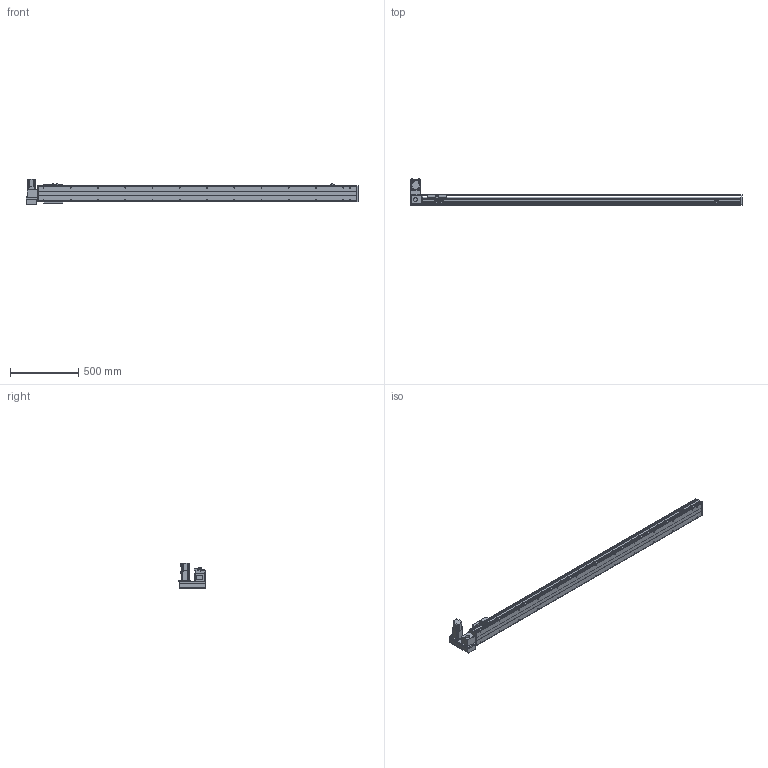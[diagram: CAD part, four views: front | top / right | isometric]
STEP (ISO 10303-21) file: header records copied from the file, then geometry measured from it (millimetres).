
FILE_DESCRIPTION( ( 'STEP AP214' ), '1' );
FILE_NAME( 'x:/temp/worker_27/temp/exporttempdir_6708_125_esbwH/format_0/PBS120-P40-S2050-LU-T40-C1-N(0).stp', '2022-06-06T00:33:23', ( 'License CC BY-ND 4.0' ), ( 'CADENAS' ), ' ', 'PARTsolutions', ' ' );
FILE_SCHEMA( ( 'AUTOMOTIVE_DESIGN { 1 0 10303 214 1 1 1 1 }' ) );
Length unit declared in the file: millimetre
Products named in the file (7): PBS120-P40-S2050-LU-T40-C1-N(0); _PBS120-S2050()_body; _PBS120T-LU_motors; _T40-p1; _PBS120_sliser; _PBS120_plant; _PBS120_sensor
Assembly tree (8 placements, depth 2):
  PBS120-P40-S2050-LU-T40-C1-N(0)
    _PBS120-S2050()_body
    _PBS120T-LU_motors
    _T40-p1
    _PBS120_sliser
    _PBS120_plant
    _PBS120_sensor  x3
Bounding box: 2436 x 198 x 189.7 mm (x, y, z)
Volume: 9378783.9 mm3; surface area: 1917974.9 mm2
Topology: 8 solids, 8 shells, 858 faces, 2206 edges, 1417 vertices
Faces by surface type: plane 559, cylinder 239, cone 58, torus 2
Full cylindrical faces by diameter (mm): 2.459 x6, 3.242 x4, 4 x2, 4.134 x4, 4.5 x10, 4.917 x30, 5.5 x11, 6 x2, 6.6 x1, 7 x2, 8.5 x4, 9 x4, 12 x1, 14 x1, 30 x2, 40 x1, 50 x2
Entity records: 28164 total; most frequent: DIRECTION 3860, CARTESIAN_POINT 3767, ORIENTED_EDGE 3562, EDGE_CURVE 1781, AXIS2_PLACEMENT_3D 1316, LINE 1228, VECTOR 1228, VERTEX_POINT 1223
